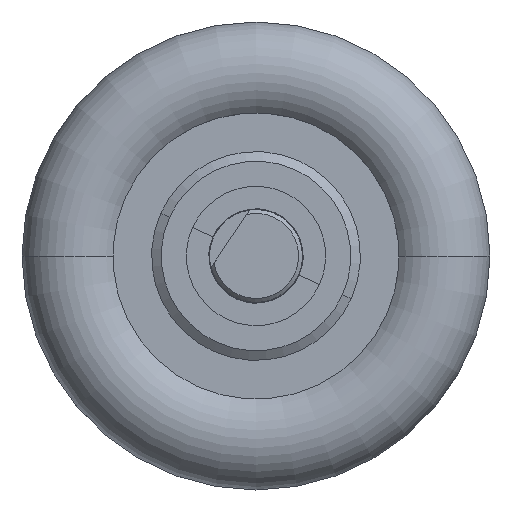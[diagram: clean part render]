
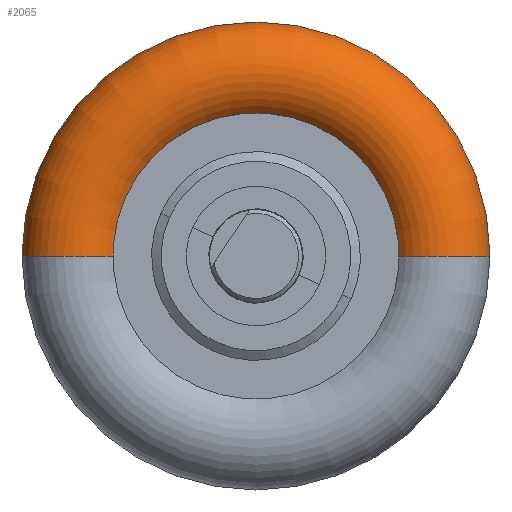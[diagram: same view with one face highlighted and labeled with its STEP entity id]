
A CAD part, left-side view. The second image highlights one B-rep face of the part: STEP entity #2065.
In plain terms, the highlighted toroidal (fillet/blend) face has major radius 23.55 mm and minor radius 6.7 mm.
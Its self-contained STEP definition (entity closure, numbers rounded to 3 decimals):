
#42 = EDGE_LOOP ( 'NONE', ( #2315, #1443, #897, #1411 ) ) ;
#65 = EDGE_CURVE ( 'NONE', #795, #228, #2465, .T. ) ;
#113 = AXIS2_PLACEMENT_3D ( 'NONE', #730, #1294, #1145 ) ;
#228 = VERTEX_POINT ( 'NONE', #2231 ) ;
#351 = DIRECTION ( 'NONE',  ( 0., -1., 0. ) ) ;
#363 = CARTESIAN_POINT ( 'NONE',  ( 6559.907, -473.992, 0. ) ) ;
#450 = FACE_OUTER_BOUND ( 'NONE', #42, .T. ) ;
#559 = AXIS2_PLACEMENT_3D ( 'NONE', #363, #1132, #351 ) ;
#730 = CARTESIAN_POINT ( 'NONE',  ( 6558.498, -497.543, 0. ) ) ;
#795 = VERTEX_POINT ( 'NONE', #1887 ) ;
#818 = CARTESIAN_POINT ( 'NONE',  ( 6559.91, -521.094, 0. ) ) ;
#844 = CARTESIAN_POINT ( 'NONE',  ( 6559.908, -497.543, 0. ) ) ;
#848 = AXIS2_PLACEMENT_3D ( 'NONE', #1187, #1198, #2373 ) ;
#897 = ORIENTED_EDGE ( 'NONE', *, *, #1353, .F. ) ;
#1073 = VERTEX_POINT ( 'NONE', #2411 ) ;
#1132 = DIRECTION ( 'NONE',  ( 0., 0., 1. ) ) ;
#1145 = DIRECTION ( 'NONE',  ( 0., -1., 0. ) ) ;
#1187 = CARTESIAN_POINT ( 'NONE',  ( 6559.909, -497.543, 0. ) ) ;
#1198 = DIRECTION ( 'NONE',  ( -1., 0., 0. ) ) ;
#1294 = DIRECTION ( 'NONE',  ( -1., 0., 0. ) ) ;
#1297 = CIRCLE ( 'NONE', #848, 30.251 ) ;
#1353 = EDGE_CURVE ( 'NONE', #228, #1073, #1650, .T. ) ;
#1380 = AXIS2_PLACEMENT_3D ( 'NONE', #818, #1407, #2201 ) ;
#1407 = DIRECTION ( 'NONE',  ( 0., 0., -1. ) ) ;
#1411 = ORIENTED_EDGE ( 'NONE', *, *, #65, .F. ) ;
#1443 = ORIENTED_EDGE ( 'NONE', *, *, #1996, .T. ) ;
#1517 = EDGE_CURVE ( 'NONE', #795, #1804, #1297, .T. ) ;
#1613 = DIRECTION ( 'NONE',  ( -1., 0., 0. ) ) ;
#1650 = CIRCLE ( 'NONE', #113, 17.001 ) ;
#1784 = DIRECTION ( 'NONE',  ( 0., -1., 0. ) ) ;
#1804 = VERTEX_POINT ( 'NONE', #2339 ) ;
#1887 = CARTESIAN_POINT ( 'NONE',  ( 6559.911, -527.794, 0. ) ) ;
#1996 = EDGE_CURVE ( 'NONE', #1804, #1073, #2049, .T. ) ;
#2049 = CIRCLE ( 'NONE', #559, 6.7 ) ;
#2065 = ADVANCED_FACE ( 'NONE', ( #450 ), #2461, .T. ) ;
#2201 = DIRECTION ( 'NONE',  ( -1., 0., 0. ) ) ;
#2220 = AXIS2_PLACEMENT_3D ( 'NONE', #844, #1613, #1784 ) ;
#2231 = CARTESIAN_POINT ( 'NONE',  ( 6558.499, -514.544, 0. ) ) ;
#2315 = ORIENTED_EDGE ( 'NONE', *, *, #1517, .T. ) ;
#2339 = CARTESIAN_POINT ( 'NONE',  ( 6559.907, -467.292, 0. ) ) ;
#2373 = DIRECTION ( 'NONE',  ( 0., -1., 0. ) ) ;
#2411 = CARTESIAN_POINT ( 'NONE',  ( 6558.497, -480.542, 0. ) ) ;
#2461 = TOROIDAL_SURFACE ( 'NONE', #2220, 23.551, 6.7 ) ;
#2465 = CIRCLE ( 'NONE', #1380, 6.7 ) ;
